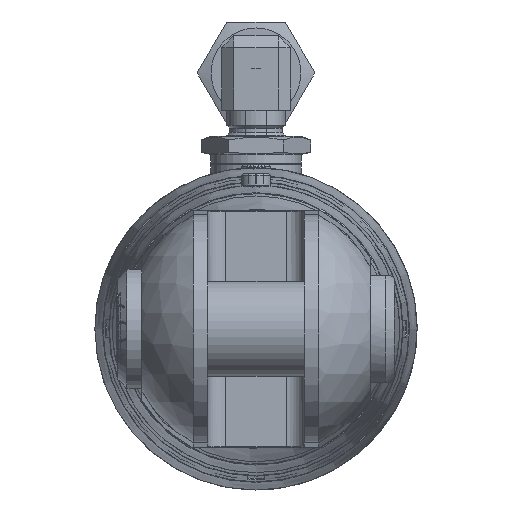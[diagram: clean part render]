
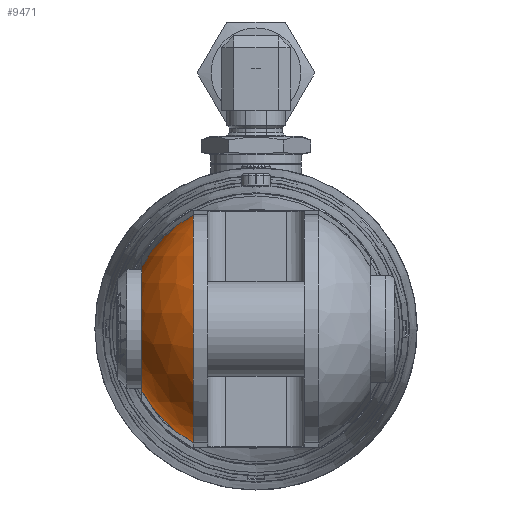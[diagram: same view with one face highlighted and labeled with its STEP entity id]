
A CAD part, left-side view. The second image highlights one B-rep face of the part: STEP entity #9471.
In plain terms, the highlighted spherical face has radius 21.732 mm.
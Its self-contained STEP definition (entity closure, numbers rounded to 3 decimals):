
#23=SPHERICAL_SURFACE('',#10405,21.732);
#838=CIRCLE('',#10401,21.729);
#839=CIRCLE('',#10403,21.729);
#841=CIRCLE('',#10406,19.056);
#842=CIRCLE('',#10407,10.447);
#1969=FACE_OUTER_BOUND('',#2525,.T.);
#2525=EDGE_LOOP('',(#8213,#8214,#8215,#8216));
#4573=VERTEX_POINT('',#17014);
#4576=VERTEX_POINT('',#17027);
#4578=VERTEX_POINT('',#17034);
#4579=VERTEX_POINT('',#17039);
#5831=EDGE_CURVE('',#4576,#4573,#838,.T.);
#5833=EDGE_CURVE('',#4578,#4579,#839,.T.);
#5838=EDGE_CURVE('',#4578,#4573,#841,.T.);
#5839=EDGE_CURVE('',#4576,#4579,#842,.T.);
#8213=ORIENTED_EDGE('',*,*,#5838,.T.);
#8214=ORIENTED_EDGE('',*,*,#5831,.F.);
#8215=ORIENTED_EDGE('',*,*,#5839,.T.);
#8216=ORIENTED_EDGE('',*,*,#5833,.F.);
#9471=ADVANCED_FACE('',(#1969),#23,.T.);
#10401=AXIS2_PLACEMENT_3D('',#17031,#12679,#12680);
#10403=AXIS2_PLACEMENT_3D('',#17040,#12683,#12684);
#10405=AXIS2_PLACEMENT_3D('',#17054,#12687,#12688);
#10406=AXIS2_PLACEMENT_3D('',#17055,#12689,#12690);
#10407=AXIS2_PLACEMENT_3D('',#17056,#12691,#12692);
#12679=DIRECTION('center_axis',(1.,0.,0.));
#12680=DIRECTION('ref_axis',(0.,0.,
1.));
#12683=DIRECTION('center_axis',(1.,0.,0.));
#12684=DIRECTION('ref_axis',(0.,0.,
1.));
#12687=DIRECTION('center_axis',(0.,0.,1.));
#12688=DIRECTION('ref_axis',(-1.,0.,0.));
#12689=DIRECTION('center_axis',(0.,1.,0.));
#12690=DIRECTION('ref_axis',(-0.018,0.,1.));
#12691=DIRECTION('center_axis',(0.,-1.,0.));
#12692=DIRECTION('ref_axis',(0.,0.,
-1.));
#17014=CARTESIAN_POINT('',(-1088.135,10.447,19.052));
#17027=CARTESIAN_POINT('',(-1088.135,19.056,10.441));
#17031=CARTESIAN_POINT('Origin',(-1088.135,0.,
0.));
#17034=CARTESIAN_POINT('',(-1088.135,10.447,-19.052));
#17039=CARTESIAN_POINT('',(-1088.135,19.056,-10.441));
#17040=CARTESIAN_POINT('Origin',(-1088.135,0.,
0.));
#17054=CARTESIAN_POINT('Origin',(-1087.768,0.,0.));
#17055=CARTESIAN_POINT('Origin',(-1087.768,10.447,0.));
#17056=CARTESIAN_POINT('Origin',(-1087.768,19.056,0.));
